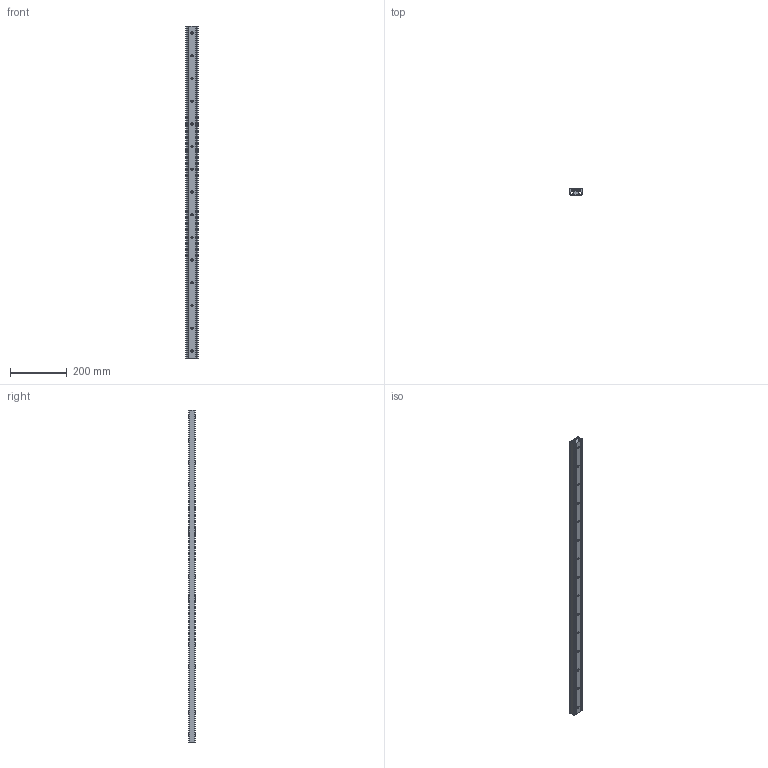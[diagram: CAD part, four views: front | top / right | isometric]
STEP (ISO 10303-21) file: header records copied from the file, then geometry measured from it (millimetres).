
FILE_DESCRIPTION(('STEP AP214'),'1');
FILE_NAME('rail_asn43-1170_00.stp','2017-06-06T10:14:51',('TraceParts'),('TraceParts S.A.'),'Spatial InterOp 3D',' ',' ');
FILE_SCHEMA(('automotive_design'));
Length unit declared in the file: millimetre
Products named in the file (2): rail_asn43-1170_00_1; rail_asn43-1170_00_2
Bounding box: 43 x 22.01 x 1170 mm (x, y, z)
Volume: 712156.8 mm3; surface area: 275718.2 mm2
Topology: 2 solids, 2 shells, 227 faces, 564 edges, 346 vertices
Faces by surface type: cylinder 91, cone 90, plane 46
Entity records: 6900 total; most frequent: DIRECTION 1294, CARTESIAN_POINT 1139, ORIENTED_EDGE 1128, EDGE_CURVE 564, AXIS2_PLACEMENT_3D 501, VERTEX_POINT 346, EDGE_LOOP 292, LINE 292
